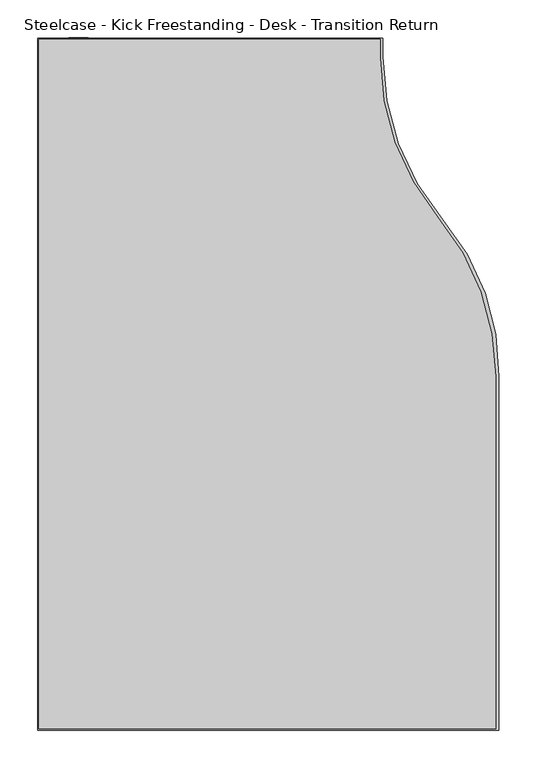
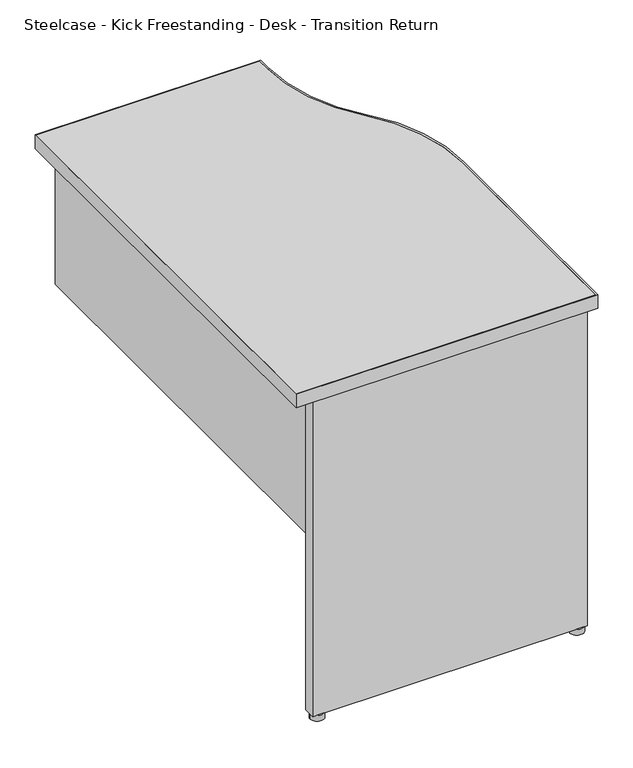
"""IFC4 building model written with IfcOpenShell, lengths in millimetres: furniture geometry, Steelcase - Kick Freestanding - Desk - Transition Return : 18D x 36W - Left - Half Panel."""

from ifc_helpers import new_model, si_unit, point, frame, frame_2d, origin, origin_with_axes, place, context, project, spatial, polyline, circle_curve, trimmed, segment, composite_curve, outline, extrude, source, transform, mapped, element, save


def steelcase_kick_freestanding_desk_transition_return_b0f7354a(model_context):
    return source(origin(), model_context, "Body", "SweptSolid", [
        extrude(outline(composite_curve([segment(trimmed(circle_curve(frame_2d((2220.2474425, -1436.3225152)), 13.97), [point((2206.2774425, -1436.3225152))], [point((2234.2174425, -1436.3225152))], False, "CARTESIAN"), True, "CONTINUOUS"), segment(trimmed(circle_curve(frame_2d((2220.2474425, -1436.3225152)), 13.97), [point((2234.2174425, -1436.3225152))], [point((2206.2774425, -1436.3225152))], False, "CARTESIAN"), True, "CONTINUOUS")], self_intersect=False)), origin_with_axes(), (0.0, 0.0, 1.0), 12.7),
        extrude(outline(composite_curve([segment(trimmed(circle_curve(frame_2d((2745.2654425, -1436.2400875)), 13.97), [point((2731.2954425, -1436.2400875))], [point((2759.2354425, -1436.2400875))], False, "CARTESIAN"), True, "CONTINUOUS"), segment(trimmed(circle_curve(frame_2d((2745.2654425, -1436.2400875)), 13.97), [point((2759.2354425, -1436.2400875))], [point((2731.2954425, -1436.2400875))], False, "CARTESIAN"), True, "CONTINUOUS")], self_intersect=False)), origin_with_axes(), (0.0, 0.0, 1.0), 12.7),
        extrude(outline(composite_curve([segment(polyline([(2616.8176592, -547.8051152), (2616.8176592, -572.1320079)]), True, "CONTINUOUS"), segment(trimmed(circle_curve(frame_2d((2941.6463505, -574.5942763)), 324.8380233), [point((2616.8176592, -572.1320079))], [point((2692.5587903, -783.1011797))], True, "CARTESIAN"), True, "CONTINUOUS"), segment(trimmed(circle_curve(frame_2d((2440.4841513, -994.1085152)), 328.7335079), [point((2692.5587903, -783.1011797))], [point((2769.2176592, -994.1085152))], False, "CARTESIAN"), True, "CONTINUOUS"), segment(polyline([(2769.2176592, -994.1085152), (2769.2176592, -1459.4619332), (2164.8500425, -1459.4619332), (2164.8500425, -547.8051152), (2616.8176592, -547.8051152)]), True, "CONTINUOUS")], self_intersect=False)), frame((0.0, 0.0, 694.944), z_axis=(0.0, 0.0, 1.0), x_axis=(1.0, 0.0, 0.0)), (0.0, 0.0, 1.0), 28.956),
        extrude(outline(composite_curve([segment(polyline([(2619.7894255, -546.8145152), (2619.7894255, -571.0836731)]), True, "CONTINUOUS"), segment(trimmed(circle_curve(frame_2d((2951.3460478, -571.0836731)), 331.5566223), [point((2619.7894255, -571.0836731))], [point((2699.261298, -786.4509703))], True, "CARTESIAN"), True, "CONTINUOUS"), segment(trimmed(circle_curve(frame_2d((2463.6949436, -987.7058619)), 309.8306613), [point((2699.261298, -786.4509703))], [point((2773.4594425, -994.1085152))], False, "CARTESIAN"), True, "CONTINUOUS"), segment(polyline([(2773.4594425, -994.1085152), (2773.4594425, -1461.2145152), (2163.8594425, -1461.2145152), (2163.8594425, -546.8145152), (2619.7894255, -546.8145152)]), True, "CONTINUOUS")], self_intersect=False), holes=[composite_curve([segment(polyline([(2616.8176592, -547.8051152), (2164.8500425, -547.8051152), (2164.8500425, -1459.4619332), (2769.2176592, -1459.4619332), (2769.2176592, -994.1085152)]), True, "CONTINUOUS"), segment(trimmed(circle_curve(frame_2d((2440.4841513, -994.1085152)), 328.7335079), [point((2769.2176592, -994.1085152))], [point((2692.5587903, -783.1011797))], True, "CARTESIAN"), True, "CONTINUOUS"), segment(trimmed(circle_curve(frame_2d((2941.6463505, -574.5942763)), 324.8380233), [point((2692.5587903, -783.1011797))], [point((2616.8176592, -572.1320079))], False, "CARTESIAN"), True, "CONTINUOUS"), segment(polyline([(2616.8176592, -572.1320079), (2616.8176592, -547.8051152)]), True, "CONTINUOUS")], self_intersect=False)]), frame((0.0, 0.0, 694.944), z_axis=(0.0, 0.0, 1.0), x_axis=(1.0, 0.0, 0.0)), (0.0, 0.0, 1.0), 28.956),
        extrude(outline(polyline([(2205.0074425, -1423.2669041), (2328.2736437, -1423.2669041), (2328.2736437, -1445.6951136), (2427.9940467, -1445.6951136), (2427.9940467, -1423.2669041), (2536.7314502, -1423.2669041), (2536.7314502, -1445.6951136), (2636.4518532, -1445.6951136), (2636.4518532, -1423.2669041), (2759.4894376, -1423.2669041), (2759.4894376, -1447.7525152), (2205.0074425, -1447.7525152), (2205.0074425, -1423.2669041)])), frame((0.0, 0.0, 12.7), z_axis=(0.0, 0.0, 1.0), x_axis=(1.0, 0.0, 0.0)), (0.0, 0.0, 1.0), 682.244),
        extrude(outline(polyline([(2230.4074426, -546.0525152), (2230.4074426, -1423.2669041), (2205.0074425, -1423.2669041), (2205.0074425, -546.0525152), (2230.4074426, -546.0525152)])), frame((0.0, 0.0, 390.144), z_axis=(0.0, 0.0, 1.0), x_axis=(1.0, 0.0, 0.0)), (0.0, 0.0, 1.0), 304.8),
    ])


if __name__ == "__main__":
    model = new_model("IFC4")
    model_context = context("Model", 3, world=origin())
    ifc_project = project(units=[si_unit("LENGTHUNIT", "METRE", prefix="MILLI")], contexts=[model_context])
    site = spatial("IfcSite", under=ifc_project)
    building = spatial("IfcBuilding", under=site)
    placement = place(None, origin())
    steelcase_kick_freestanding_desk_transition_return_shape = steelcase_kick_freestanding_desk_transition_return_b0f7354a(model_context)
    element("IfcFurniture", 1, ObjectType="Steelcase - Kick Freestanding - Desk - Transition Return : 18D x 36W - Left - Half Panel", at=placement, inside=building, context=model_context, shape_type="MappedRepresentation", body=[
        mapped(steelcase_kick_freestanding_desk_transition_return_shape, transform((0.0, 0.0, 0.0), x_axis=(1.0, 0.0, 0.0), y_axis=(0.0, 1.0, 0.0), z_axis=(0.0, 0.0, 1.0))),
    ])
    save(model, "model.ifc")
